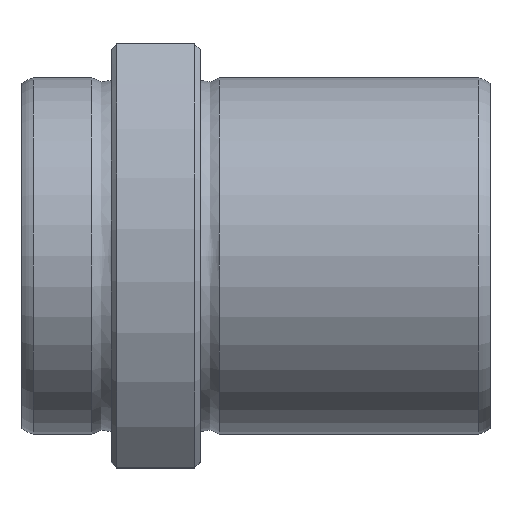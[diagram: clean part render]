
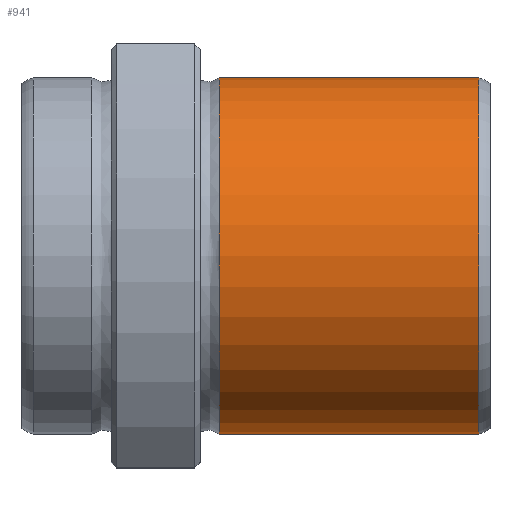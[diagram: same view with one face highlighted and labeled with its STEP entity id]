
A CAD part, top view. The second image highlights one B-rep face of the part: STEP entity #941.
In plain terms, the highlighted cylindrical face has radius 16 mm (diameter 32 mm), a full revolution.
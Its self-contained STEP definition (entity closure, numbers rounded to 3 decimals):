
#907=CARTESIAN_POINT('',(40.999,0.0,16.));
#908=VERTEX_POINT('',#907);
#909=CARTESIAN_POINT('',(40.999,0.0,0.0));
#910=DIRECTION('',(-1.0,0.0,0.0));
#911=DIRECTION('',(0.0,0.0,1.0));
#912=AXIS2_PLACEMENT_3D('',#909,#910,#911);
#913=CIRCLE('',#912,16.);
#914=EDGE_CURVE('',#908,#908,#913,.T.);
#922=CARTESIAN_POINT('',(29.359,0.0,0.0));
#923=DIRECTION('',(-1.0,0.0,0.0));
#924=DIRECTION('',(0.0,0.0,1.0));
#925=AXIS2_PLACEMENT_3D('',#922,#923,#924);
#926=CYLINDRICAL_SURFACE('',#925,16.);
#927=CARTESIAN_POINT('',(17.72,0.0,16.));
#928=VERTEX_POINT('',#927);
#929=CARTESIAN_POINT('',(17.72,0.0,0.0));
#930=DIRECTION('',(-1.0,0.0,0.0));
#931=DIRECTION('',(0.0,0.0,1.0));
#932=AXIS2_PLACEMENT_3D('',#929,#930,#931);
#933=CIRCLE('',#932,16.);
#934=EDGE_CURVE('',#928,#928,#933,.T.);
#935=ORIENTED_EDGE('',*,*,#934,.F.);
#936=EDGE_LOOP('',(#935));
#937=FACE_OUTER_BOUND('',#936,.T.);
#938=ORIENTED_EDGE('',*,*,#914,.T.);
#939=EDGE_LOOP('',(#938));
#940=FACE_BOUND('',#939,.T.);
#941=ADVANCED_FACE('',(#937,#940),#926,.T.);
